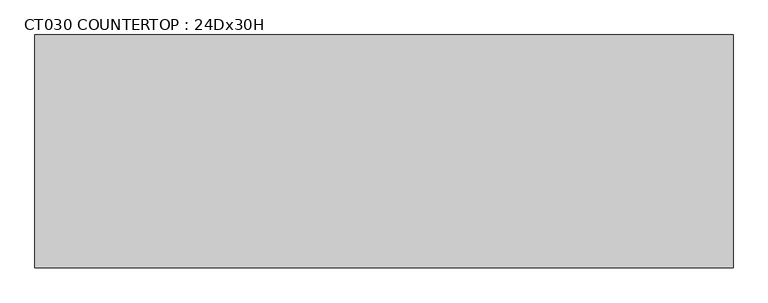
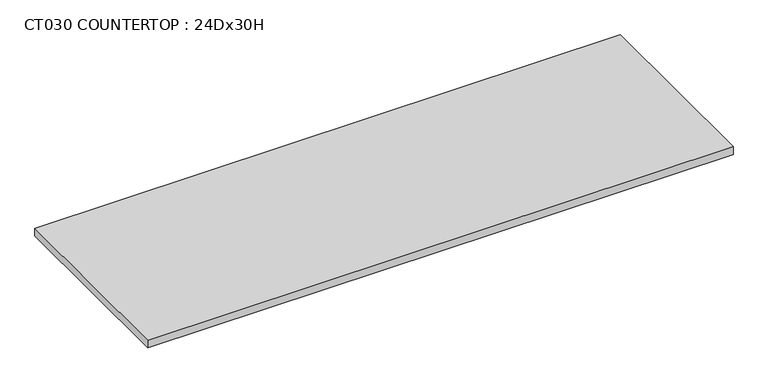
"""IFC4 building model written with IfcOpenShell, lengths in millimetres: furniture geometry, CT030 COUNTERTOP : 24Dx30H."""

from ifc_helpers import new_model, si_unit, frame, origin, place, context, project, spatial, polyline, outline, extrude, source, transform, mapped, element, save


def ct030_countertop_24dx30h_fcd22b56(model_context):
    return source(origin(), model_context, "Body", "SweptSolid", [
        extrude(outline(polyline([(628.3377049, -615.0), (628.3377049, -1224.6), (-1200.4622951, -1224.6), (-1200.4622951, -615.0), (628.3377049, -615.0)])), frame((0.0, 0.0, 736.6), z_axis=(0.0, 0.0, 1.0), x_axis=(1.0, 0.0, 0.0)), (0.0, 0.0, 1.0), 25.4),
    ])


if __name__ == "__main__":
    model = new_model("IFC4")
    model_context = context("Model", 3, world=origin())
    ifc_project = project(units=[si_unit("LENGTHUNIT", "METRE", prefix="MILLI")], contexts=[model_context])
    site = spatial("IfcSite", under=ifc_project)
    building = spatial("IfcBuilding", under=site)
    placement = place(None, origin())
    ct030_countertop_24dx30h_shape = ct030_countertop_24dx30h_fcd22b56(model_context)
    element("IfcFurniture", 1, ObjectType="CT030 COUNTERTOP : 24Dx30H", at=placement, inside=building, context=model_context, shape_type="MappedRepresentation", body=[
        mapped(ct030_countertop_24dx30h_shape, transform((0.0, 0.0, 0.0), x_axis=(1.0, 0.0, 0.0), y_axis=(0.0, 1.0, 0.0), z_axis=(0.0, 0.0, 1.0))),
    ])
    save(model, "model.ifc")
